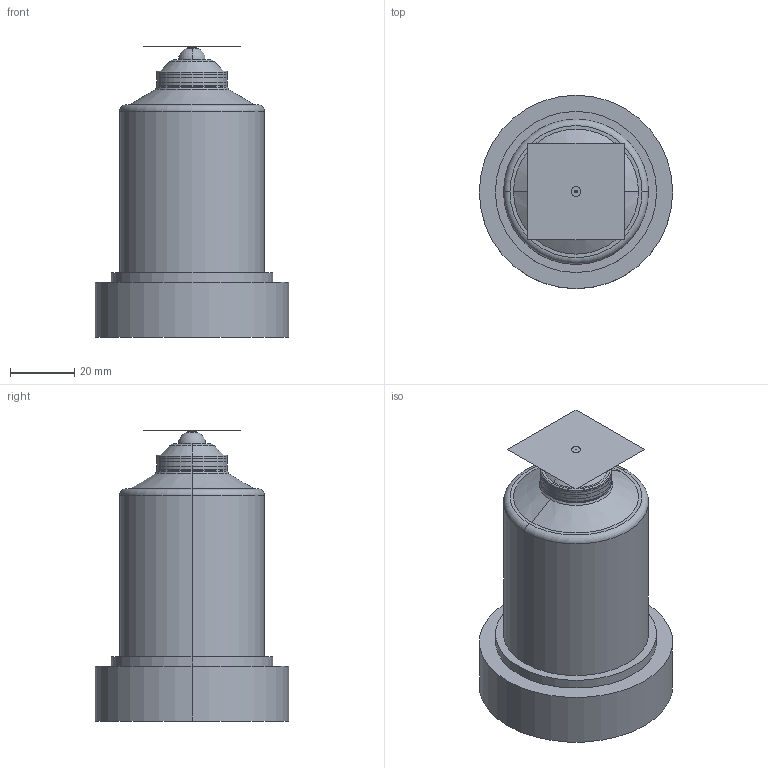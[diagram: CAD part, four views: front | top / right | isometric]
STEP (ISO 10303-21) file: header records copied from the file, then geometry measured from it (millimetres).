
FILE_DESCRIPTION (( 'STEP AP214' ), '1' );
FILE_NAME ('16E-06-090-TTW.STEP', '2021-07-14T13:40:06', ( '' ), ( '' ), 'SwSTEP 2.0', 'SolidWorks 2018', '' );
FILE_SCHEMA (( 'AUTOMOTIVE_DESIGN' ));
Length unit declared in the file: millimetre
Products named in the file (5): 16nt-ttw-01_dummy_16NT-TTW-01; nozzle_16E-06-090-TTW; 16E-06-090-TTW; 16nt-ttw-##-01_pdasm_16NT-TTW-01 (H3.0)_(16E-06); cutout_16E-06-090-TTW
Assembly tree (4 placements, depth 3):
  16E-06-090-TTW
    16nt-ttw-##-01_pdasm_16NT-TTW-01 (H3.0)_(16E-06)
      16nt-ttw-01_dummy_16NT-TTW-01
    nozzle_16E-06-090-TTW
    cutout_16E-06-090-TTW
Bounding box: 60 x 60 x 90 mm (x, y, z)
Volume: 156081 mm3; surface area: 50270.4 mm2
Topology: 2 solids, 5 shells, 479 faces, 1285 edges, 780 vertices
Faces by surface type: cylinder 174, plane 160, torus 80, cone 61, sphere 4
Entity records: 18154 total; most frequent: CARTESIAN_POINT 3792, DIRECTION 2798, ORIENTED_EDGE 2566, EDGE_CURVE 1285, AXIS2_PLACEMENT_3D 1134, VERTEX_POINT 780, CIRCLE 646, LINE 530
